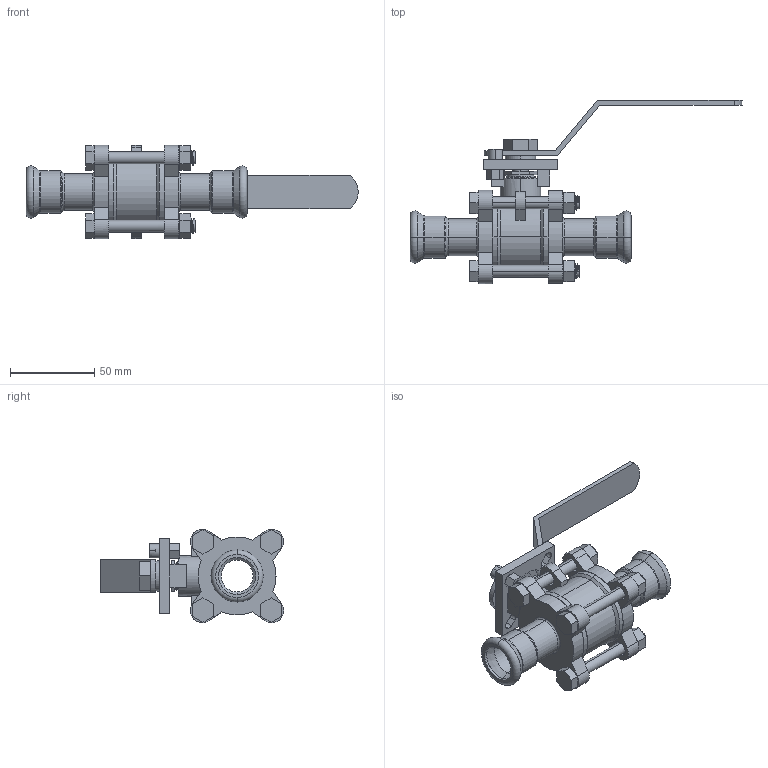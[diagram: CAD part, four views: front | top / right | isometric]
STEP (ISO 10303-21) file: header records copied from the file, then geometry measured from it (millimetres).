
FILE_DESCRIPTION (( 'STEP AP214' ), '1' );
FILE_NAME ('V2200PM.STEP', '2025-08-17T06:45:15', ( '' ), ( '' ), 'SwSTEP 2.0', 'SolidWorks 2020', '' );
FILE_SCHEMA (( 'AUTOMOTIVE_DESIGN' ));
Length unit declared in the file: millimetre
Products named in the file (1): V2200PM
Bounding box: 197.35 x 108.93 x 55.38 mm (x, y, z)
Volume: 125587.3 mm3; surface area: 67826.5 mm2
Topology: 3 solids, 3 shells, 526 faces, 1362 edges, 871 vertices
Faces by surface type: cylinder 251, plane 204, bspline 27, torus 24, cone 20
Entity records: 31420 total; most frequent: CARTESIAN_POINT 13307, ORIENTED_EDGE 2724, DIRECTION 2421, EDGE_CURVE 1362, AXIS2_PLACEMENT_3D 879, VERTEX_POINT 871, VECTOR 663, LINE 663
